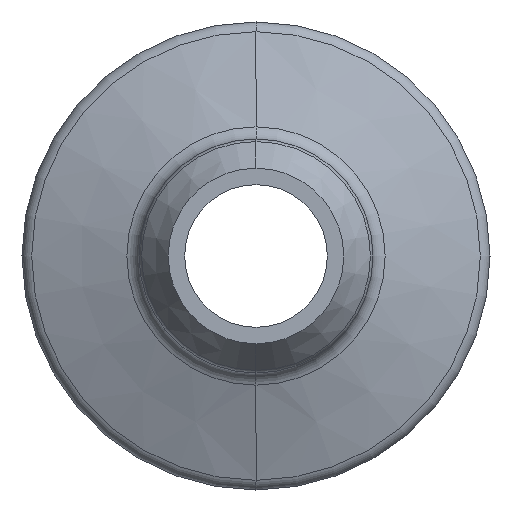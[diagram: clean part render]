
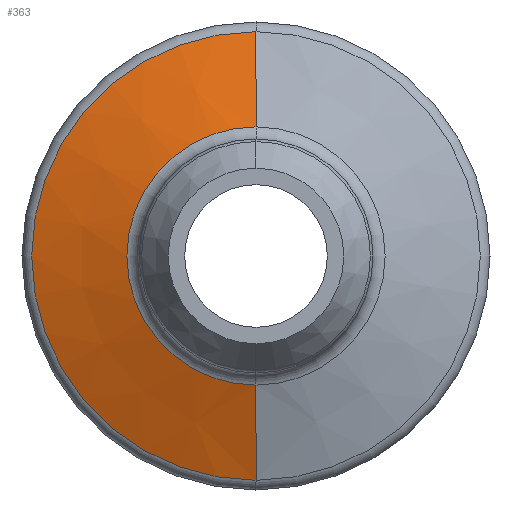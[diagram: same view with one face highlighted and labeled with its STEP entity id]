
A CAD part, left-side view. The second image highlights one B-rep face of the part: STEP entity #363.
In plain terms, the highlighted conical face has half-angle 70 degrees and reference radius 7.008 mm.
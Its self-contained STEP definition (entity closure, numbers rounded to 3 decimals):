
#2 = ORIENTED_EDGE ( 'NONE', *, *, #526, .F. ) ;
#27 = VECTOR ( 'NONE', #931, 1000. ) ;
#41 = CARTESIAN_POINT ( 'NONE',  ( 56.533, 0., -12.174 ) ) ;
#67 = AXIS2_PLACEMENT_3D ( 'NONE', #812, #890, #879 ) ;
#87 = AXIS2_PLACEMENT_3D ( 'NONE', #734, #591, #165 ) ;
#92 = EDGE_CURVE ( 'NONE', #480, #600, #948, .T. ) ;
#98 = CARTESIAN_POINT ( 'NONE',  ( 54.653, 0., 7.008 ) ) ;
#149 = FACE_OUTER_BOUND ( 'NONE', #873, .T. ) ;
#165 = DIRECTION ( 'NONE',  ( 0., 0., 1. ) ) ;
#172 = CARTESIAN_POINT ( 'NONE',  ( 54.653, 0., -7.008 ) ) ;
#188 = EDGE_CURVE ( 'NONE', #600, #446, #878, .T. ) ;
#247 = DIRECTION ( 'NONE',  ( 0., 0., 1. ) ) ;
#248 = CARTESIAN_POINT ( 'NONE',  ( 54.653, 0., -7.008 ) ) ;
#305 = CONICAL_SURFACE ( 'NONE', #67, 7.008, 1.222 ) ;
#363 = ADVANCED_FACE ( 'NONE', ( #149 ), #305, .T. ) ;
#370 = ORIENTED_EDGE ( 'NONE', *, *, #92, .T. ) ;
#397 = DIRECTION ( 'NONE',  ( 0.342, 0., 0.94 ) ) ;
#446 = VERTEX_POINT ( 'NONE', #41 ) ;
#447 = ORIENTED_EDGE ( 'NONE', *, *, #984, .F. ) ;
#480 = VERTEX_POINT ( 'NONE', #584 ) ;
#501 = AXIS2_PLACEMENT_3D ( 'NONE', #708, #557, #247 ) ;
#522 = ORIENTED_EDGE ( 'NONE', *, *, #188, .T. ) ;
#526 = EDGE_CURVE ( 'NONE', #554, #446, #623, .T. ) ;
#554 = VERTEX_POINT ( 'NONE', #172 ) ;
#557 = DIRECTION ( 'NONE',  ( -1., 0., 0. ) ) ;
#584 = CARTESIAN_POINT ( 'NONE',  ( 54.653, 0., 7.008 ) ) ;
#591 = DIRECTION ( 'NONE',  ( -1., 0., 0. ) ) ;
#600 = VERTEX_POINT ( 'NONE', #637 ) ;
#623 = LINE ( 'NONE', #248, #27 ) ;
#637 = CARTESIAN_POINT ( 'NONE',  ( 56.533, 0., 12.174 ) ) ;
#708 = CARTESIAN_POINT ( 'NONE',  ( 54.653, 0., 0. ) ) ;
#734 = CARTESIAN_POINT ( 'NONE',  ( 56.533, 0., 0. ) ) ;
#791 = VECTOR ( 'NONE', #397, 1000. ) ;
#812 = CARTESIAN_POINT ( 'NONE',  ( 54.653, 0., 0. ) ) ;
#818 = CIRCLE ( 'NONE', #501, 7.008 ) ;
#873 = EDGE_LOOP ( 'NONE', ( #447, #370, #522, #2 ) ) ;
#878 = CIRCLE ( 'NONE', #87, 12.174 ) ;
#879 = DIRECTION ( 'NONE',  ( 0., 0., -1. ) ) ;
#890 = DIRECTION ( 'NONE',  ( 1., 0., 0. ) ) ;
#931 = DIRECTION ( 'NONE',  ( 0.342, 0., -0.94 ) ) ;
#948 = LINE ( 'NONE', #98, #791 ) ;
#984 = EDGE_CURVE ( 'NONE', #480, #554, #818, .T. ) ;
